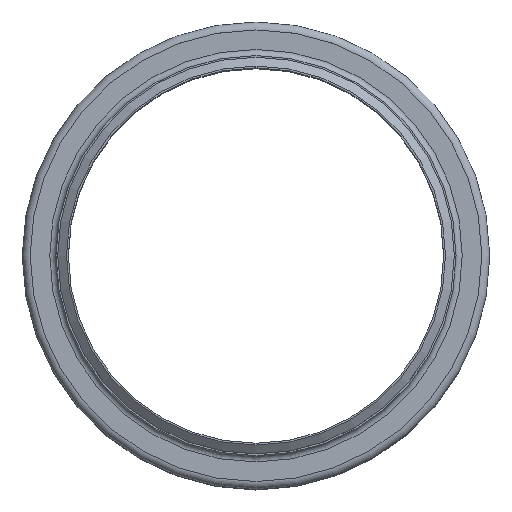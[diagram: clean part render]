
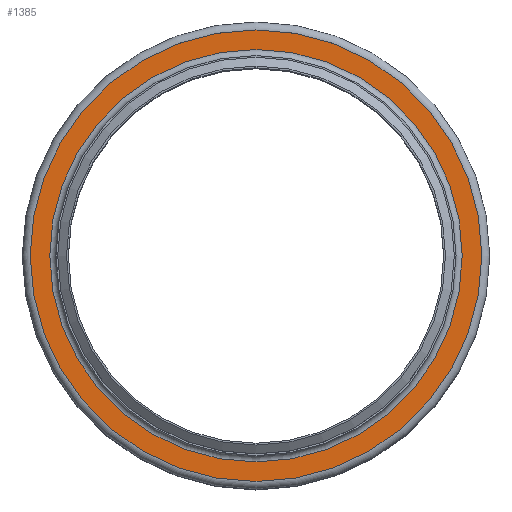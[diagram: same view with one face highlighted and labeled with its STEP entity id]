
A CAD part, top view. The second image highlights one B-rep face of the part: STEP entity #1385.
In plain terms, the highlighted planar face has unit normal (0, 0, 1).
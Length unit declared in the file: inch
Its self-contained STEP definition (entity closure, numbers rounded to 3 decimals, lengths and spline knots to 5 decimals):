
#155=FACE_BOUND('',#416,.T.);
#256=FACE_OUTER_BOUND('',#415,.T.);
#415=EDGE_LOOP('',(#1168));
#416=EDGE_LOOP('',(#1169));
#584=CIRCLE('',#1684,7.28);
#585=CIRCLE('',#1686,7.97);
#703=VERTEX_POINT('',#2631);
#704=VERTEX_POINT('',#2635);
#862=EDGE_CURVE('',#703,#703,#584,.T.);
#863=EDGE_CURVE('',#704,#704,#585,.T.);
#1168=ORIENTED_EDGE('',*,*,#863,.F.);
#1169=ORIENTED_EDGE('',*,*,#862,.T.);
#1284=PLANE('',#1685);
#1385=ADVANCED_FACE('',(#256,#155),#1284,.T.);
#1684=AXIS2_PLACEMENT_3D('',#2633,#2197,#2198);
#1685=AXIS2_PLACEMENT_3D('',#2634,#2199,#2200);
#1686=AXIS2_PLACEMENT_3D('',#2636,#2201,#2202);
#2197=DIRECTION('center_axis',(0.,0.,-1.));
#2198=DIRECTION('ref_axis',(1.,0.,0.));
#2199=DIRECTION('center_axis',(0.,0.,1.));
#2200=DIRECTION('ref_axis',(1.,0.,0.));
#2201=DIRECTION('center_axis',(0.,0.,-1.));
#2202=DIRECTION('ref_axis',(1.,0.,0.));
#2631=CARTESIAN_POINT('',(7.28,0.,-0.22));
#2633=CARTESIAN_POINT('Origin',(0.,0.,-0.22));
#2634=CARTESIAN_POINT('Origin',(0.,7.97,-0.22));
#2635=CARTESIAN_POINT('',(7.97,0.,-0.22));
#2636=CARTESIAN_POINT('Origin',(0.,0.,-0.22));
